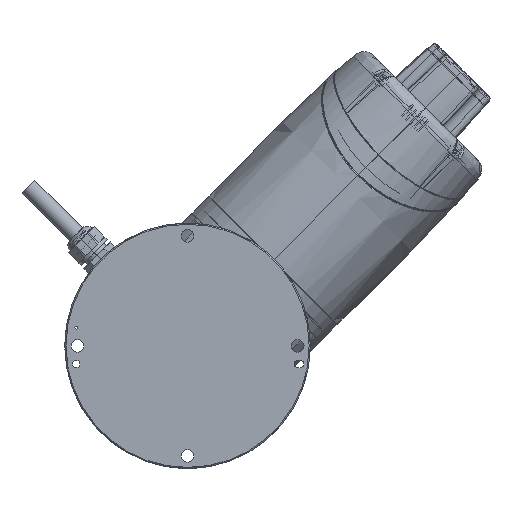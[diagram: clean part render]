
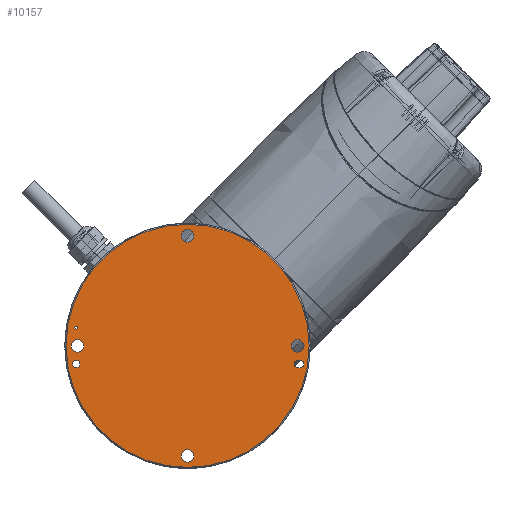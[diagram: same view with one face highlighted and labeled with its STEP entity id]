
A CAD part, front view. The second image highlights one B-rep face of the part: STEP entity #10157.
In plain terms, the highlighted planar face has unit normal (0, -1, 0).
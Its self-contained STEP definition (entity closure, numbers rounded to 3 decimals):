
#2085=CARTESIAN_POINT('',(0.,0.,0.));
#2086=DIRECTION('',(0.,1.,0.));
#2087=DIRECTION('',(1.,0.,0.));
#2088=AXIS2_PLACEMENT_3D('',#2085,#2086,#2087);
#2090=CARTESIAN_POINT('',(0.,0.,0.));
#2091=DIRECTION('',(0.,1.,0.));
#2092=DIRECTION('',(0.,0.,-1.));
#2093=AXIS2_PLACEMENT_3D('',#2090,#2091,#2092);
#2095=CARTESIAN_POINT('',(0.,0.,0.));
#2096=DIRECTION('',(0.,1.,0.));
#2097=DIRECTION('',(-1.,0.,0.));
#2098=AXIS2_PLACEMENT_3D('',#2095,#2096,#2097);
#2100=CARTESIAN_POINT('',(0.,0.,0.));
#2101=DIRECTION('',(0.,1.,0.));
#2102=DIRECTION('',(0.,0.,1.));
#2103=AXIS2_PLACEMENT_3D('',#2100,#2101,#2102);
#2105=CARTESIAN_POINT('',(-91.,0.,0.));
#2106=DIRECTION('',(0.,-1.,0.));
#2107=DIRECTION('',(-1.,0.,0.));
#2108=AXIS2_PLACEMENT_3D('',#2105,#2106,#2107);
#2110=CARTESIAN_POINT('',(-91.,0.,0.));
#2111=DIRECTION('',(0.,-1.,0.));
#2112=DIRECTION('',(1.,0.,0.));
#2113=AXIS2_PLACEMENT_3D('',#2110,#2111,#2112);
#2115=CARTESIAN_POINT('',(-92.,0.,-15.));
#2116=DIRECTION('',(0.,-1.,0.));
#2117=DIRECTION('',(1.,0.,0.));
#2118=AXIS2_PLACEMENT_3D('',#2115,#2116,#2117);
#2120=CARTESIAN_POINT('',(-92.,0.,-15.));
#2121=DIRECTION('',(0.,-1.,0.));
#2122=DIRECTION('',(-1.,0.,0.));
#2123=AXIS2_PLACEMENT_3D('',#2120,#2121,#2122);
#2125=CARTESIAN_POINT('',(0.,0.,91.));
#2126=DIRECTION('',(0.,-1.,0.));
#2127=DIRECTION('',(1.,0.,0.));
#2128=AXIS2_PLACEMENT_3D('',#2125,#2126,#2127);
#2130=CARTESIAN_POINT('',(0.,0.,91.));
#2131=DIRECTION('',(0.,-1.,0.));
#2132=DIRECTION('',(-1.,0.,0.));
#2133=AXIS2_PLACEMENT_3D('',#2130,#2131,#2132);
#2135=CARTESIAN_POINT('',(91.,0.,0.));
#2136=DIRECTION('',(0.,-1.,0.));
#2137=DIRECTION('',(1.,0.,0.));
#2138=AXIS2_PLACEMENT_3D('',#2135,#2136,#2137);
#2140=CARTESIAN_POINT('',(91.,0.,0.));
#2141=DIRECTION('',(0.,-1.,0.));
#2142=DIRECTION('',(-1.,0.,0.));
#2143=AXIS2_PLACEMENT_3D('',#2140,#2141,#2142);
#2145=CARTESIAN_POINT('',(93.,0.,-15.));
#2146=DIRECTION('',(0.,-1.,0.));
#2147=DIRECTION('',(0.,0.,-1.));
#2148=AXIS2_PLACEMENT_3D('',#2145,#2146,#2147);
#2150=CARTESIAN_POINT('',(93.,0.,-15.));
#2151=DIRECTION('',(0.,-1.,0.));
#2152=DIRECTION('',(1.,0.,0.));
#2153=AXIS2_PLACEMENT_3D('',#2150,#2151,#2152);
#2155=CARTESIAN_POINT('',(91.,0.,-15.));
#2156=DIRECTION('',(0.,-1.,0.));
#2157=DIRECTION('',(0.,0.,1.));
#2158=AXIS2_PLACEMENT_3D('',#2155,#2156,#2157);
#2160=CARTESIAN_POINT('',(91.,0.,-15.));
#2161=DIRECTION('',(0.,-1.,0.));
#2162=DIRECTION('',(-1.,0.,0.));
#2163=AXIS2_PLACEMENT_3D('',#2160,#2161,#2162);
#2165=CARTESIAN_POINT('',(-92.,0.,15.));
#2166=DIRECTION('',(0.,-1.,0.));
#2167=DIRECTION('',(-1.,0.,0.));
#2168=AXIS2_PLACEMENT_3D('',#2165,#2166,#2167);
#2170=CARTESIAN_POINT('',(-92.,0.,15.));
#2171=DIRECTION('',(0.,-1.,0.));
#2172=DIRECTION('',(1.,0.,0.));
#2173=AXIS2_PLACEMENT_3D('',#2170,#2171,#2172);
#2175=CARTESIAN_POINT('',(0.,0.,-91.));
#2176=DIRECTION('',(0.,-1.,0.));
#2177=DIRECTION('',(1.,0.,0.));
#2178=AXIS2_PLACEMENT_3D('',#2175,#2176,#2177);
#2180=CARTESIAN_POINT('',(0.,0.,-91.));
#2181=DIRECTION('',(0.,-1.,0.));
#2182=DIRECTION('',(-1.,0.,0.));
#2183=AXIS2_PLACEMENT_3D('',#2180,#2181,#2182);
#3709=DIRECTION('',(1.,0.,0.));
#3710=VECTOR('',#3709,2.);
#3711=CARTESIAN_POINT('',(91.,0.,-12.));
#3712=LINE('',#3711,#3710);
#3725=DIRECTION('',(-1.,0.,0.));
#3726=VECTOR('',#3725,2.);
#3727=CARTESIAN_POINT('',(93.,0.,-18.));
#3728=LINE('',#3727,#3726);
#4870=CARTESIAN_POINT('',(100.5,0.,0.));
#4871=VERTEX_POINT('',#4870);
#4872=CARTESIAN_POINT('',(0.,0.,100.5));
#4873=VERTEX_POINT('',#4872);
#4874=CARTESIAN_POINT('',(-100.5,0.,0.));
#4875=VERTEX_POINT('',#4874);
#4878=CARTESIAN_POINT('',(0.,0.,-100.5));
#4879=VERTEX_POINT('',#4878);
#5084=CARTESIAN_POINT('',(-5.25,0.,-91.));
#5085=VERTEX_POINT('',#5084);
#5086=CARTESIAN_POINT('',(5.25,0.,-91.));
#5087=VERTEX_POINT('',#5086);
#5088=CARTESIAN_POINT('',(-96.25,0.,0.));
#5089=CARTESIAN_POINT('',(-85.75,0.,0.));
#5090=VERTEX_POINT('',#5088);
#5091=VERTEX_POINT('',#5089);
#5092=CARTESIAN_POINT('',(-89.,0.,-15.));
#5093=CARTESIAN_POINT('',(-95.,0.,-15.));
#5094=VERTEX_POINT('',#5092);
#5095=VERTEX_POINT('',#5093);
#5096=CARTESIAN_POINT('',(5.25,0.,91.));
#5097=CARTESIAN_POINT('',(-5.25,0.,91.));
#5098=VERTEX_POINT('',#5096);
#5099=VERTEX_POINT('',#5097);
#5100=CARTESIAN_POINT('',(96.25,0.,0.));
#5101=CARTESIAN_POINT('',(85.75,0.,0.));
#5102=VERTEX_POINT('',#5100);
#5103=VERTEX_POINT('',#5101);
#5104=CARTESIAN_POINT('',(93.,0.,-18.));
#5105=CARTESIAN_POINT('',(96.,0.,-15.));
#5106=VERTEX_POINT('',#5104);
#5107=VERTEX_POINT('',#5105);
#5108=CARTESIAN_POINT('',(93.,0.,-12.));
#5109=VERTEX_POINT('',#5108);
#5110=CARTESIAN_POINT('',(91.,0.,-12.));
#5111=VERTEX_POINT('',#5110);
#5112=CARTESIAN_POINT('',(88.,0.,-15.));
#5113=VERTEX_POINT('',#5112);
#5114=CARTESIAN_POINT('',(91.,0.,-18.));
#5115=VERTEX_POINT('',#5114);
#5116=CARTESIAN_POINT('',(-93.25,0.,15.));
#5117=CARTESIAN_POINT('',(-90.75,0.,15.));
#5118=VERTEX_POINT('',#5116);
#5119=VERTEX_POINT('',#5117);
#10098=CARTESIAN_POINT('',(0.,0.,0.));
#10099=DIRECTION('',(0.,1.,0.));
#10100=DIRECTION('',(-1.,0.,0.));
#10101=AXIS2_PLACEMENT_3D('',#10098,#10099,#10100);
#10102=PLANE('',#10101);
#10103=ORIENTED_EDGE('',*,*,#6926,.T.);
#10104=ORIENTED_EDGE('',*,*,#6924,.T.);
#10105=ORIENTED_EDGE('',*,*,#6907,.T.);
#10106=ORIENTED_EDGE('',*,*,#6905,.T.);
#10107=EDGE_LOOP('',(#10103,#10104,#10105,#10106));
#10108=FACE_OUTER_BOUND('',#10107,.F.);
#10110=ORIENTED_EDGE('',*,*,#10109,.T.);
#10112=ORIENTED_EDGE('',*,*,#10111,.T.);
#10113=EDGE_LOOP('',(#10110,#10112));
#10114=FACE_BOUND('',#10113,.F.);
#10116=ORIENTED_EDGE('',*,*,#10115,.T.);
#10118=ORIENTED_EDGE('',*,*,#10117,.T.);
#10119=EDGE_LOOP('',(#10116,#10118));
#10120=FACE_BOUND('',#10119,.F.);
#10122=ORIENTED_EDGE('',*,*,#10121,.T.);
#10124=ORIENTED_EDGE('',*,*,#10123,.T.);
#10125=EDGE_LOOP('',(#10122,#10124));
#10126=FACE_BOUND('',#10125,.F.);
#10128=ORIENTED_EDGE('',*,*,#10127,.T.);
#10130=ORIENTED_EDGE('',*,*,#10129,.T.);
#10131=EDGE_LOOP('',(#10128,#10130));
#10132=FACE_BOUND('',#10131,.F.);
#10134=ORIENTED_EDGE('',*,*,#10133,.T.);
#10136=ORIENTED_EDGE('',*,*,#10135,.T.);
#10138=ORIENTED_EDGE('',*,*,#10137,.F.);
#10140=ORIENTED_EDGE('',*,*,#10139,.T.);
#10142=ORIENTED_EDGE('',*,*,#10141,.T.);
#10144=ORIENTED_EDGE('',*,*,#10143,.F.);
#10145=EDGE_LOOP('',(#10134,#10136,#10138,#10140,#10142,#10144));
#10146=FACE_BOUND('',#10145,.F.);
#10148=ORIENTED_EDGE('',*,*,#10147,.T.);
#10150=ORIENTED_EDGE('',*,*,#10149,.T.);
#10151=EDGE_LOOP('',(#10148,#10150));
#10152=FACE_BOUND('',#10151,.F.);
#10153=ORIENTED_EDGE('',*,*,#10078,.T.);
#10154=ORIENTED_EDGE('',*,*,#10092,.T.);
#10155=EDGE_LOOP('',(#10153,#10154));
#10156=FACE_BOUND('',#10155,.F.);
#2089=CIRCLE('',#2088,100.5);
#2094=CIRCLE('',#2093,100.5);
#2099=CIRCLE('',#2098,100.5);
#2104=CIRCLE('',#2103,100.5);
#2109=CIRCLE('',#2108,5.25);
#2114=CIRCLE('',#2113,5.25);
#2119=CIRCLE('',#2118,3.);
#2124=CIRCLE('',#2123,3.);
#2129=CIRCLE('',#2128,5.25);
#2134=CIRCLE('',#2133,5.25);
#2139=CIRCLE('',#2138,5.25);
#2144=CIRCLE('',#2143,5.25);
#2149=CIRCLE('',#2148,3.);
#2154=CIRCLE('',#2153,3.);
#2159=CIRCLE('',#2158,3.);
#2164=CIRCLE('',#2163,3.);
#2169=CIRCLE('',#2168,1.25);
#2174=CIRCLE('',#2173,1.25);
#2179=CIRCLE('',#2178,5.25);
#2184=CIRCLE('',#2183,5.25);
#6905=EDGE_CURVE('',#4873,#4871,#2104,.T.);
#6907=EDGE_CURVE('',#4875,#4873,#2099,.T.);
#6924=EDGE_CURVE('',#4879,#4875,#2094,.T.);
#6926=EDGE_CURVE('',#4871,#4879,#2089,.T.);
#10078=EDGE_CURVE('',#5087,#5085,#2179,.T.);
#10092=EDGE_CURVE('',#5085,#5087,#2184,.T.);
#10109=EDGE_CURVE('',#5090,#5091,#2109,.T.);
#10111=EDGE_CURVE('',#5091,#5090,#2114,.T.);
#10115=EDGE_CURVE('',#5094,#5095,#2119,.T.);
#10117=EDGE_CURVE('',#5095,#5094,#2124,.T.);
#10121=EDGE_CURVE('',#5098,#5099,#2129,.T.);
#10123=EDGE_CURVE('',#5099,#5098,#2134,.T.);
#10127=EDGE_CURVE('',#5102,#5103,#2139,.T.);
#10129=EDGE_CURVE('',#5103,#5102,#2144,.T.);
#10133=EDGE_CURVE('',#5106,#5107,#2149,.T.);
#10135=EDGE_CURVE('',#5107,#5109,#2154,.T.);
#10137=EDGE_CURVE('',#5111,#5109,#3712,.T.);
#10139=EDGE_CURVE('',#5111,#5113,#2159,.T.);
#10141=EDGE_CURVE('',#5113,#5115,#2164,.T.);
#10143=EDGE_CURVE('',#5106,#5115,#3728,.T.);
#10147=EDGE_CURVE('',#5118,#5119,#2169,.T.);
#10149=EDGE_CURVE('',#5119,#5118,#2174,.T.);
#10157=ADVANCED_FACE('',(#10108,#10114,#10120,#10126,#10132,#10146,#10152,
#10156),#10102,.F.);
